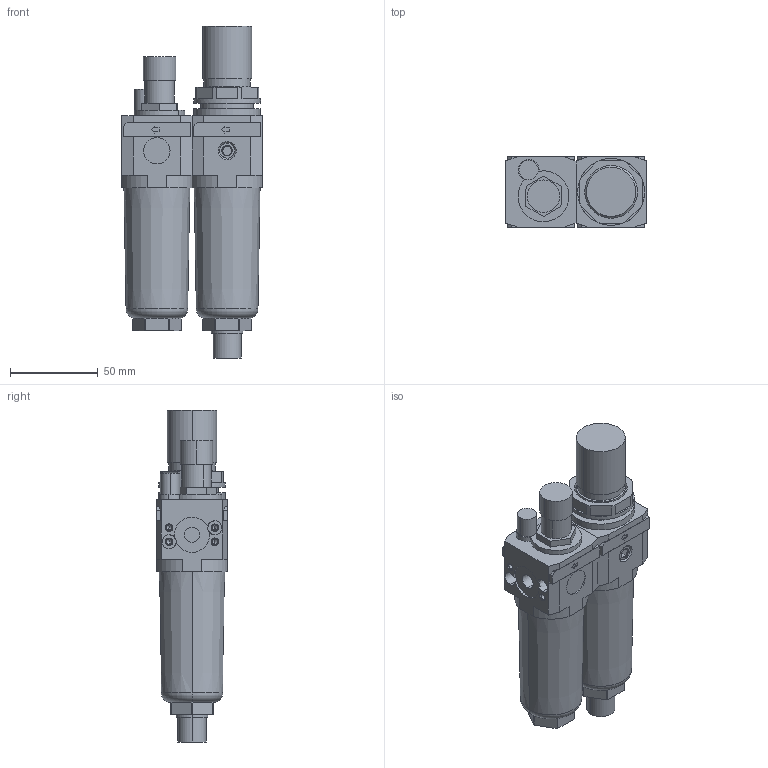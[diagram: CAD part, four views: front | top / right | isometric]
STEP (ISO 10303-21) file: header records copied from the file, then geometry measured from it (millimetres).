
FILE_DESCRIPTION((''),'2;1');
FILE_NAME('I:\DOC-EDP\Lib-3d\FRL\17106A_P.stp','2003-06-16T14:49:21',('maffial1'),(''),'Autodesk Inventor 7','Autodesk Inventor 7','');
FILE_SCHEMA(('AUTOMOTIVE_DESIGN { 1 0 10303 214 1 1 1 1 }'));
Length unit declared in the file: millimetre
Products named in the file (6): 17106A_P; 17104A_P; 17104A_P(1); RS_1701_12; RK_1701_020; 17103A_P
Assembly tree (5 placements, depth 3):
  17106A_P
    17104A_P
      17104A_P(1)
      RS_1701_12
      RK_1701_020
    17103A_P
Bounding box: 80 x 40 x 189 mm (x, y, z)
Volume: 327149.6 mm3; surface area: 58473.9 mm2
Topology: 4 solids, 8 shells, 410 faces, 995 edges, 623 vertices
Faces by surface type: plane 145, bspline 111, cylinder 102, cone 44, torus 8
Entity records: 12813 total; most frequent: CARTESIAN_POINT 3328, ORIENTED_EDGE 1934, DIRECTION 1910, EDGE_CURVE 967, AXIS2_PLACEMENT_3D 657, VERTEX_POINT 623, VECTOR 596, LINE 596
